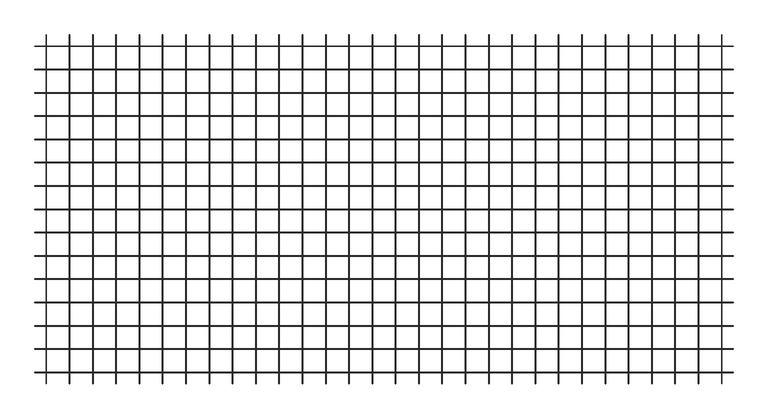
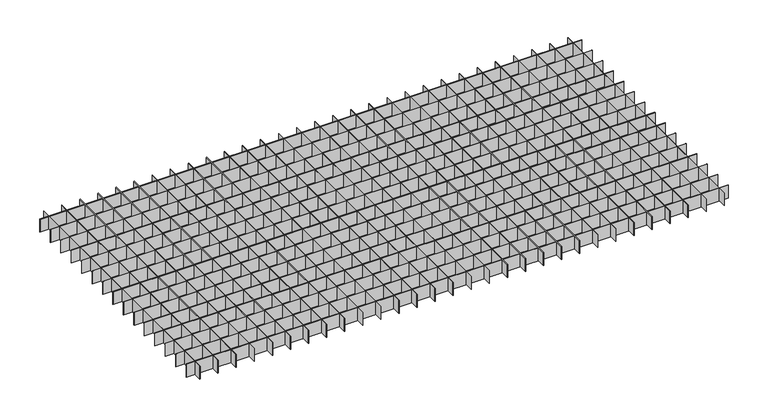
"""IFC4 building model written with IfcOpenShell, lengths in millimetres: proxy geometry, durlum_QUADRA_panel : durlum_QUADRA."""

from ifc_helpers import new_model, si_unit, origin, origin_with_axes, place, context, project, spatial, polyline, outline, extrude, source, transform, mapped, element, save


def generic_models_2c5692c7(model_context):
    return source(origin(), model_context, "Body", "SweptSolid", [
        extrude(outline(polyline([(539.6, 299.5), (540.4, 299.5), (540.4, -299.5), (539.6, -299.5), (539.6, 299.5)])), origin_with_axes(), (0.0, 0.0, 1.0), 30.0),
        extrude(outline(polyline([(499.6, 299.5), (500.4, 299.5), (500.4, -299.5), (499.6, -299.5), (499.6, 299.5)])), origin_with_axes(), (0.0, 0.0, 1.0), 30.0),
        extrude(outline(polyline([(459.6, 299.5), (460.4, 299.5), (460.4, -299.5), (459.6, -299.5), (459.6, 299.5)])), origin_with_axes(), (0.0, 0.0, 1.0), 30.0),
        extrude(outline(polyline([(419.6, 299.5), (420.4, 299.5), (420.4, -299.5), (419.6, -299.5), (419.6, 299.5)])), origin_with_axes(), (0.0, 0.0, 1.0), 30.0),
        extrude(outline(polyline([(379.6, 299.5), (380.4, 299.5), (380.4, -299.5), (379.6, -299.5), (379.6, 299.5)])), origin_with_axes(), (0.0, 0.0, 1.0), 30.0),
        extrude(outline(polyline([(339.6, 299.5), (340.4, 299.5), (340.4, -299.5), (339.6, -299.5), (339.6, 299.5)])), origin_with_axes(), (0.0, 0.0, 1.0), 30.0),
        extrude(outline(polyline([(299.6, 299.5), (300.4, 299.5), (300.4, -299.5), (299.6, -299.5), (299.6, 299.5)])), origin_with_axes(), (0.0, 0.0, 1.0), 30.0),
        extrude(outline(polyline([(259.6, 299.5), (260.4, 299.5), (260.4, -299.5), (259.6, -299.5), (259.6, 299.5)])), origin_with_axes(), (0.0, 0.0, 1.0), 30.0),
        extrude(outline(polyline([(219.6, 299.5), (220.4, 299.5), (220.4, -299.5), (219.6, -299.5), (219.6, 299.5)])), origin_with_axes(), (0.0, 0.0, 1.0), 30.0),
        extrude(outline(polyline([(179.6, 299.5), (180.4, 299.5), (180.4, -299.5), (179.6, -299.5), (179.6, 299.5)])), origin_with_axes(), (0.0, 0.0, 1.0), 30.0),
        extrude(outline(polyline([(139.6, 299.5), (140.4, 299.5), (140.4, -299.5), (139.6, -299.5), (139.6, 299.5)])), origin_with_axes(), (0.0, 0.0, 1.0), 30.0),
        extrude(outline(polyline([(99.6, 299.5), (100.4, 299.5), (100.4, -299.5), (99.6, -299.5), (99.6, 299.5)])), origin_with_axes(), (0.0, 0.0, 1.0), 30.0),
        extrude(outline(polyline([(59.6, 299.5), (60.4, 299.5), (60.4, -299.5), (59.6, -299.5), (59.6, 299.5)])), origin_with_axes(), (0.0, 0.0, 1.0), 30.0),
        extrude(outline(polyline([(19.6, 299.5), (20.4, 299.5), (20.4, -299.5), (19.6, -299.5), (19.6, 299.5)])), origin_with_axes(), (0.0, 0.0, 1.0), 30.0),
        extrude(outline(polyline([(-20.4, 299.5), (-19.6, 299.5), (-19.6, -299.5), (-20.4, -299.5), (-20.4, 299.5)])), origin_with_axes(), (0.0, 0.0, 1.0), 30.0),
        extrude(outline(polyline([(599.5, -239.6), (599.5, -240.4), (-599.5, -240.4), (-599.5, -239.6), (599.5, -239.6)])), origin_with_axes(), (0.0, 0.0, 1.0), 30.0),
        extrude(outline(polyline([(599.5, -199.6), (599.5, -200.4), (-599.5, -200.4), (-599.5, -199.6), (599.5, -199.6)])), origin_with_axes(), (0.0, 0.0, 1.0), 30.0),
        extrude(outline(polyline([(599.5, -159.6), (599.5, -160.4), (-599.5, -160.4), (-599.5, -159.6), (599.5, -159.6)])), origin_with_axes(), (0.0, 0.0, 1.0), 30.0),
        extrude(outline(polyline([(599.5, -119.6), (599.5, -120.4), (-599.5, -120.4), (-599.5, -119.6), (599.5, -119.6)])), origin_with_axes(), (0.0, 0.0, 1.0), 30.0),
        extrude(outline(polyline([(599.5, -79.6), (599.5, -80.4), (-599.5, -80.4), (-599.5, -79.6), (599.5, -79.6)])), origin_with_axes(), (0.0, 0.0, 1.0), 30.0),
        extrude(outline(polyline([(599.5, -39.6), (599.5, -40.4), (-599.5, -40.4), (-599.5, -39.6), (599.5, -39.6)])), origin_with_axes(), (0.0, 0.0, 1.0), 30.0),
        extrude(outline(polyline([(599.5, 0.4), (599.5, -0.4), (-599.5, -0.4), (-599.5, 0.4), (599.5, 0.4)])), origin_with_axes(), (0.0, 0.0, 1.0), 30.0),
        extrude(outline(polyline([(-60.4, 299.5), (-59.6, 299.5), (-59.6, -299.5), (-60.4, -299.5), (-60.4, 299.5)])), origin_with_axes(), (0.0, 0.0, 1.0), 30.0),
        extrude(outline(polyline([(-100.4, 299.5), (-99.6, 299.5), (-99.6, -299.5), (-100.4, -299.5), (-100.4, 299.5)])), origin_with_axes(), (0.0, 0.0, 1.0), 30.0),
        extrude(outline(polyline([(-140.4, 299.5), (-139.6, 299.5), (-139.6, -299.5), (-140.4, -299.5), (-140.4, 299.5)])), origin_with_axes(), (0.0, 0.0, 1.0), 30.0),
        extrude(outline(polyline([(-180.4, 299.5), (-179.6, 299.5), (-179.6, -299.5), (-180.4, -299.5), (-180.4, 299.5)])), origin_with_axes(), (0.0, 0.0, 1.0), 30.0),
        extrude(outline(polyline([(-220.4, 299.5), (-219.6, 299.5), (-219.6, -299.5), (-220.4, -299.5), (-220.4, 299.5)])), origin_with_axes(), (0.0, 0.0, 1.0), 30.0),
        extrude(outline(polyline([(-260.4, 299.5), (-259.6, 299.5), (-259.6, -299.5), (-260.4, -299.5), (-260.4, 299.5)])), origin_with_axes(), (0.0, 0.0, 1.0), 30.0),
        extrude(outline(polyline([(-300.4, 299.5), (-299.6, 299.5), (-299.6, -299.5), (-300.4, -299.5), (-300.4, 299.5)])), origin_with_axes(), (0.0, 0.0, 1.0), 30.0),
        extrude(outline(polyline([(-340.4, 299.5), (-339.6, 299.5), (-339.6, -299.5), (-340.4, -299.5), (-340.4, 299.5)])), origin_with_axes(), (0.0, 0.0, 1.0), 30.0),
        extrude(outline(polyline([(-380.4, 299.5), (-379.6, 299.5), (-379.6, -299.5), (-380.4, -299.5), (-380.4, 299.5)])), origin_with_axes(), (0.0, 0.0, 1.0), 30.0),
        extrude(outline(polyline([(-420.4, 299.5), (-419.6, 299.5), (-419.6, -299.5), (-420.4, -299.5), (-420.4, 299.5)])), origin_with_axes(), (0.0, 0.0, 1.0), 30.0),
        extrude(outline(polyline([(-460.4, 299.5), (-459.6, 299.5), (-459.6, -299.5), (-460.4, -299.5), (-460.4, 299.5)])), origin_with_axes(), (0.0, 0.0, 1.0), 30.0),
        extrude(outline(polyline([(-500.4, 299.5), (-499.6, 299.5), (-499.6, -299.5), (-500.4, -299.5), (-500.4, 299.5)])), origin_with_axes(), (0.0, 0.0, 1.0), 30.0),
        extrude(outline(polyline([(-540.4, 299.5), (-539.6, 299.5), (-539.6, -299.5), (-540.4, -299.5), (-540.4, 299.5)])), origin_with_axes(), (0.0, 0.0, 1.0), 30.0),
        extrude(outline(polyline([(599.5, 40.4), (599.5, 39.6), (-599.5, 39.6), (-599.5, 40.4), (599.5, 40.4)])), origin_with_axes(), (0.0, 0.0, 1.0), 30.0),
        extrude(outline(polyline([(599.5, 80.4), (599.5, 79.6), (-599.5, 79.6), (-599.5, 80.4), (599.5, 80.4)])), origin_with_axes(), (0.0, 0.0, 1.0), 30.0),
        extrude(outline(polyline([(599.5, 120.4), (599.5, 119.6), (-599.5, 119.6), (-599.5, 120.4), (599.5, 120.4)])), origin_with_axes(), (0.0, 0.0, 1.0), 30.0),
        extrude(outline(polyline([(599.5, 160.4), (599.5, 159.6), (-599.5, 159.6), (-599.5, 160.4), (599.5, 160.4)])), origin_with_axes(), (0.0, 0.0, 1.0), 30.0),
        extrude(outline(polyline([(599.5, 200.4), (599.5, 199.6), (-599.5, 199.6), (-599.5, 200.4), (599.5, 200.4)])), origin_with_axes(), (0.0, 0.0, 1.0), 30.0),
        extrude(outline(polyline([(599.5, 240.4), (599.5, 239.6), (-599.5, 239.6), (-599.5, 240.4), (599.5, 240.4)])), origin_with_axes(), (0.0, 0.0, 1.0), 30.0),
        extrude(outline(polyline([(579.6, 299.5), (580.4, 299.5), (580.4, -299.5), (579.6, -299.5), (579.6, 299.5)])), origin_with_axes(), (0.0, 0.0, 1.0), 30.0),
        extrude(outline(polyline([(-580.4, 299.5), (-579.6, 299.5), (-579.6, -299.5), (-580.4, -299.5), (-580.4, 299.5)])), origin_with_axes(), (0.0, 0.0, 1.0), 30.0),
        extrude(outline(polyline([(599.5, -279.6), (599.5, -280.4), (-599.5, -280.4), (-599.5, -279.6), (599.5, -279.6)])), origin_with_axes(), (0.0, 0.0, 1.0), 30.0),
        extrude(outline(polyline([(599.5, 280.4), (599.5, 279.6), (-599.5, 279.6), (-599.5, 280.4), (599.5, 280.4)])), origin_with_axes(), (0.0, 0.0, 1.0), 30.0),
    ])


if __name__ == "__main__":
    model = new_model("IFC4")
    model_context = context("Model", 3, world=origin())
    ifc_project = project(units=[si_unit("LENGTHUNIT", "METRE", prefix="MILLI")], contexts=[model_context])
    site = spatial("IfcSite", under=ifc_project)
    building = spatial("IfcBuilding", under=site)
    placement = place(None, origin())
    generic_models_shape = generic_models_2c5692c7(model_context)
    element("IfcBuildingElementProxy", 1, Name="durlum_QUADRA_panel : durlum_QUADRA", ObjectType="durlum_QUADRA_panel : durlum_QUADRA", at=placement, inside=building, context=model_context, shape_type="MappedRepresentation", body=[
        mapped(generic_models_shape, transform((0.0, 0.0, 0.0), x_axis=(1.0, 0.0, 0.0), y_axis=(0.0, 1.0, 0.0), z_axis=(0.0, 0.0, 1.0))),
    ])
    save(model, "model.ifc")
